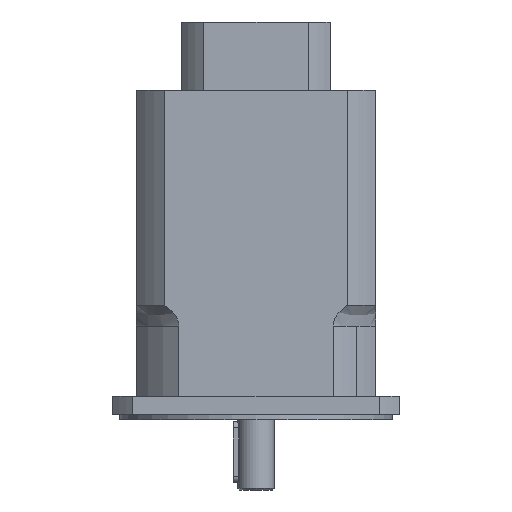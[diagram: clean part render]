
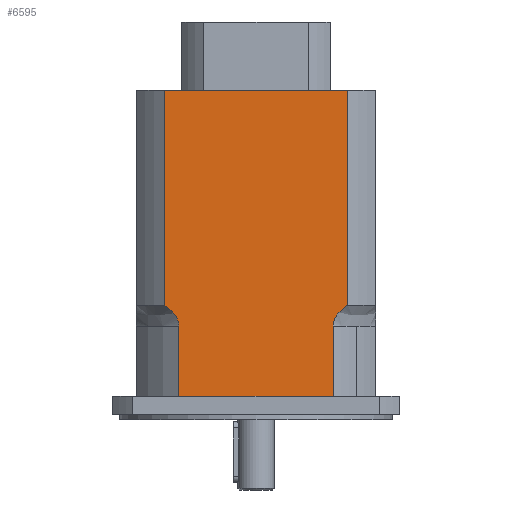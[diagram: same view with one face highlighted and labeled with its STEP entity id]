
A CAD part, front view. The second image highlights one B-rep face of the part: STEP entity #6595.
In plain terms, the highlighted planar face has unit normal (0, -1, 0).
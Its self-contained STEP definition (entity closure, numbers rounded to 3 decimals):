
#2820=CARTESIAN_POINT('',(50.941,-79.,-155.775));
#2821=VERTEX_POINT('',#2820);
#2829=CARTESIAN_POINT('',(50.941,-79.,-202.0));
#2830=VERTEX_POINT('',#2829);
#2831=CARTESIAN_POINT('',(50.941,-79.,-202.0));
#2832=DIRECTION('',(0.0,0.0,1.0));
#2833=VECTOR('',#2832,46.225);
#2834=LINE('',#2831,#2833);
#2835=EDGE_CURVE('',#2830,#2821,#2834,.T.);
#4449=CARTESIAN_POINT('',(-50.941,-79.0,-202.0));
#4450=VERTEX_POINT('',#4449);
#4451=CARTESIAN_POINT('',(50.941,-79.,-202.0));
#4452=DIRECTION('',(-1.0,0.0,0.0));
#4453=VECTOR('',#4452,101.882);
#4454=LINE('',#4451,#4453);
#4455=EDGE_CURVE('',#2830,#4450,#4454,.T.);
#4724=CARTESIAN_POINT('',(60.492,-79.,-142.0));
#4725=VERTEX_POINT('',#4724);
#4733=CARTESIAN_POINT('',(50.941,-79.,-155.775));
#4734=CARTESIAN_POINT('',(50.941,-79.,-155.287));
#4735=CARTESIAN_POINT('',(50.976,-79.,-154.753));
#4736=CARTESIAN_POINT('',(51.128,-79.,-153.695));
#4737=CARTESIAN_POINT('',(51.244,-79.,-153.172));
#4738=CARTESIAN_POINT('',(51.528,-79.,-152.177));
#4739=CARTESIAN_POINT('',(51.73,-79.,-151.613));
#4740=CARTESIAN_POINT('',(52.213,-79.,-150.518));
#4741=CARTESIAN_POINT('',(52.493,-79.,-149.987));
#4742=CARTESIAN_POINT('',(53.514,-79.,-148.264));
#4743=CARTESIAN_POINT('',(54.502,-79.,-147.018));
#4744=CARTESIAN_POINT('',(56.731,-79.,-144.762));
#4745=CARTESIAN_POINT('',(57.969,-79.,-143.748));
#4746=CARTESIAN_POINT('',(59.583,-79.,-142.598));
#4747=CARTESIAN_POINT('',(60.029,-79.,-142.296));
#4748=CARTESIAN_POINT('',(60.492,-79.,-142.0));
#4749=B_SPLINE_CURVE_WITH_KNOTS('',3,(#4733,#4734,#4735,#4736,#4737,#4738,#4739,#4740,#4741,#4742,#4743,#4744,#4745,#4746,#4747,#4748),.UNSPECIFIED.,.F.,.U.,(4,2,2,2,2,2,2,4),(7.235,7.381,7.528,7.691,7.855,8.292,8.729,8.887),.UNSPECIFIED.);
#4750=EDGE_CURVE('',#2821,#4725,#4749,.T.);
#4852=CARTESIAN_POINT('',(-60.492,-79.0,-142.0));
#4853=VERTEX_POINT('',#4852);
#4854=CARTESIAN_POINT('',(-50.941,-79.0,-155.775));
#4855=VERTEX_POINT('',#4854);
#4856=CARTESIAN_POINT('',(-60.492,-79.0,-142.0));
#4857=CARTESIAN_POINT('',(-60.029,-79.0,-142.296));
#4858=CARTESIAN_POINT('',(-59.583,-79.0,-142.598));
#4859=CARTESIAN_POINT('',(-57.969,-79.0,-143.748));
#4860=CARTESIAN_POINT('',(-56.731,-79.0,-144.762));
#4861=CARTESIAN_POINT('',(-54.502,-79.0,-147.018));
#4862=CARTESIAN_POINT('',(-53.514,-79.0,-148.264));
#4863=CARTESIAN_POINT('',(-52.493,-79.0,-149.987));
#4864=CARTESIAN_POINT('',(-52.213,-79.0,-150.518));
#4865=CARTESIAN_POINT('',(-51.73,-79.0,-151.613));
#4866=CARTESIAN_POINT('',(-51.528,-79.0,-152.177));
#4867=CARTESIAN_POINT('',(-51.244,-79.0,-153.172));
#4868=CARTESIAN_POINT('',(-51.128,-79.0,-153.695));
#4869=CARTESIAN_POINT('',(-50.976,-79.0,-154.753));
#4870=CARTESIAN_POINT('',(-50.941,-79.0,-155.287));
#4871=CARTESIAN_POINT('',(-50.941,-79.0,-155.775));
#4872=B_SPLINE_CURVE_WITH_KNOTS('',3,(#4856,#4857,#4858,#4859,#4860,#4861,#4862,#4863,#4864,#4865,#4866,#4867,#4868,#4869,#4870,#4871),.UNSPECIFIED.,.F.,.U.,(4,2,2,2,2,2,2,4),(5.583,5.741,6.178,6.615,6.778,6.942,7.089,7.235),.UNSPECIFIED.);
#4873=EDGE_CURVE('',#4853,#4855,#4872,.T.);
#5071=CARTESIAN_POINT('',(-50.941,-79.0,-155.775));
#5072=DIRECTION('',(0.0,0.0,-1.0));
#5073=VECTOR('',#5072,46.225);
#5074=LINE('',#5071,#5073);
#5075=EDGE_CURVE('',#4855,#4450,#5074,.T.);
#5461=CARTESIAN_POINT('',(-60.492,-79.0,0.0));
#5462=VERTEX_POINT('',#5461);
#5463=CARTESIAN_POINT('',(60.492,-79.,0.0));
#5464=VERTEX_POINT('',#5463);
#5465=CARTESIAN_POINT('',(-60.492,-79.0,0.0));
#5466=DIRECTION('',(1.0,0.0,0.0));
#5467=VECTOR('',#5466,120.983);
#5468=LINE('',#5465,#5467);
#5469=EDGE_CURVE('',#5462,#5464,#5468,.T.);
#6570=CARTESIAN_POINT('',(-60.492,-79.0,0.));
#6571=DIRECTION('',(0.0,-1.0,0.0));
#6572=DIRECTION('',(0.0,0.0,-1.0));
#6573=AXIS2_PLACEMENT_3D('',#6570,#6571,#6572);
#6574=PLANE('',#6573);
#6575=ORIENTED_EDGE('',*,*,#4873,.T.);
#6576=ORIENTED_EDGE('',*,*,#5075,.T.);
#6577=ORIENTED_EDGE('',*,*,#4455,.F.);
#6578=ORIENTED_EDGE('',*,*,#2835,.T.);
#6579=ORIENTED_EDGE('',*,*,#4750,.T.);
#6580=CARTESIAN_POINT('',(60.492,-79.,-142.0));
#6581=DIRECTION('',(0.0,0.0,1.0));
#6582=VECTOR('',#6581,142.0);
#6583=LINE('',#6580,#6582);
#6584=EDGE_CURVE('',#4725,#5464,#6583,.T.);
#6585=ORIENTED_EDGE('',*,*,#6584,.T.);
#6586=ORIENTED_EDGE('',*,*,#5469,.F.);
#6587=CARTESIAN_POINT('',(-60.492,-79.0,-142.0));
#6588=DIRECTION('',(0.0,0.0,1.0));
#6589=VECTOR('',#6588,142.0);
#6590=LINE('',#6587,#6589);
#6591=EDGE_CURVE('',#4853,#5462,#6590,.T.);
#6592=ORIENTED_EDGE('',*,*,#6591,.F.);
#6593=EDGE_LOOP('',(#6575,#6576,#6577,#6578,#6579,#6585,#6586,#6592));
#6594=FACE_OUTER_BOUND('',#6593,.T.);
#6595=ADVANCED_FACE('',(#6594),#6574,.T.);
